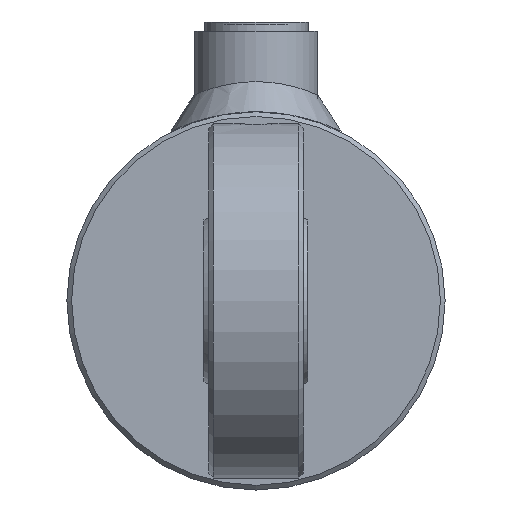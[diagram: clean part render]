
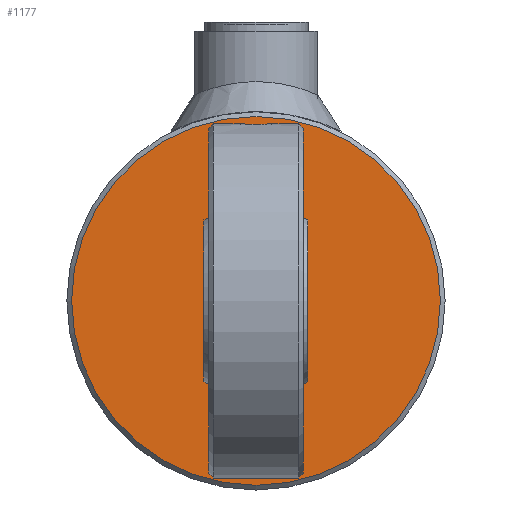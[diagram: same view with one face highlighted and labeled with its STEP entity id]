
A CAD part, left-side view. The second image highlights one B-rep face of the part: STEP entity #1177.
In plain terms, the highlighted planar face has unit normal (-1, 0, 0).
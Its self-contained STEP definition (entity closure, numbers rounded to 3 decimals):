
#1177 = ADVANCED_FACE( '', ( #2247 ), #2248, .T. );
#2247 = FACE_OUTER_BOUND( '', #6380, .T. );
#2248 = PLANE( '', #6381 );
#6380 = EDGE_LOOP( '', ( #8833 ) );
#6381 = AXIS2_PLACEMENT_3D( '', #8834, #8835, #8836 );
#8833 = ORIENTED_EDGE( '', *, *, #9680, .T. );
#8834 = CARTESIAN_POINT( '', ( -12., 0., 0. ) );
#8835 = DIRECTION( '', ( -1., 0., 0. ) );
#8836 = DIRECTION( '', ( 0., -1., 0. ) );
#9680 = EDGE_CURVE( '', #10761, #10761, #10762, .T. );
#10761 = VERTEX_POINT( '', #13199 );
#10762 = CIRCLE( '', #13200, 39. );
#13199 = CARTESIAN_POINT( '', ( -12., -39., 0. ) );
#13200 = AXIS2_PLACEMENT_3D( '', #14504, #14505, #14506 );
#14504 = CARTESIAN_POINT( '', ( -12., 0., 0. ) );
#14505 = DIRECTION( '', ( -1., 0., 0. ) );
#14506 = DIRECTION( '', ( 0., -1., 0. ) );
